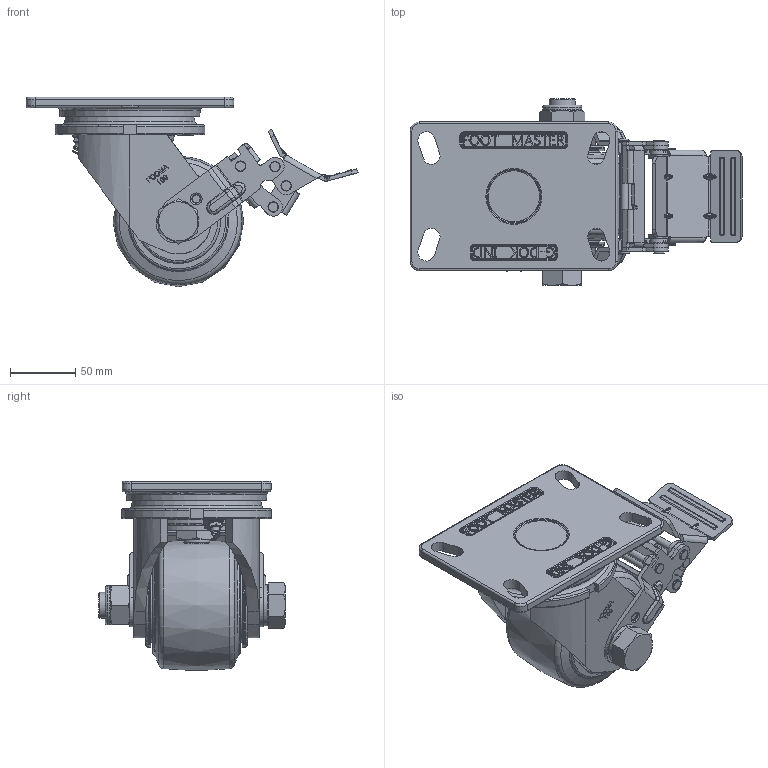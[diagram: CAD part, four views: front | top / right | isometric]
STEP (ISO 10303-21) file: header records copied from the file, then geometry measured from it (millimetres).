
FILE_DESCRIPTION(/* description */ (''),/* implementation_level */ '2;1');
FILE_NAME(/* name */ '\\192.168.10.38\지덕공유\1.기술연구소\손동원\GF-SERIES\3D\GF-100-BSF-MUD.stp',/* time_stamp */ '2023-07-25T13:59:36+09:00',/* author */ ('admin'),/* organization */ (''),/* preprocessor_version */ 'ST-DEVELOPER v18.1',/* originating_system */ 'Autodesk Inventor 2021',/* authorisation */ '');
FILE_SCHEMA (('AUTOMOTIVE_DESIGN { 1 0 10303 214 3 1 1 }'));
Products named in the file (1): GF-100-BSF-MUD
Bounding box: 254.17 x 143 x 145 mm (x, y, z)
Volume: 1083959.1 mm3; surface area: 178733.9 mm2
Topology: 10 solids, 10 shells, 1851 faces, 4801 edges, 3042 vertices
Faces by surface type: plane 644, bspline 530, cylinder 461, torus 139, cone 61, sphere 16
Full cylindrical faces by diameter (mm): 4 x4, 6 x5, 6.2 x18, 7 x2, 8 x8, 9.7 x2, 10 x2, 20 x5, 20.2 x2, 25 x2, 30 x1, 32.334 x2, 33 x2, 39.666 x2, 57 x2, 59 x1, 64.519 x2
Entity records: 67605 total; most frequent: CARTESIAN_POINT 24734, ORIENTED_EDGE 9574, DIRECTION 7896, EDGE_CURVE 4787, VERTEX_POINT 3051, AXIS2_PLACEMENT_3D 2795, LINE 2306, VECTOR 2306
